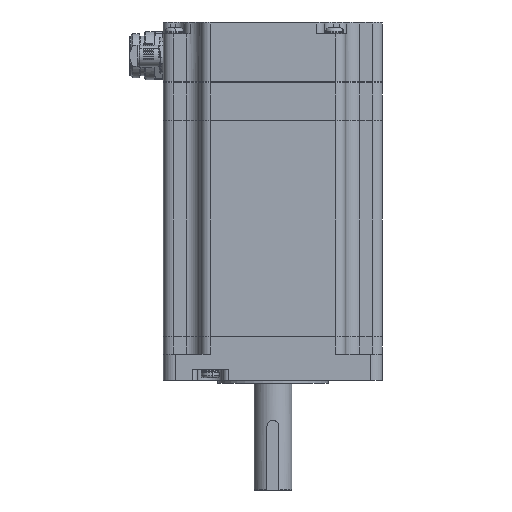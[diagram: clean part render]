
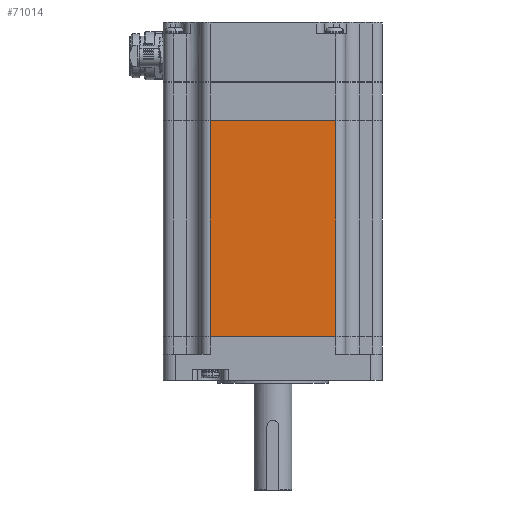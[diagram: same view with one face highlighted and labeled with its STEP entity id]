
A CAD part, front view. The second image highlights one B-rep face of the part: STEP entity #71014.
In plain terms, the highlighted planar face has unit normal (0, -1, 0).
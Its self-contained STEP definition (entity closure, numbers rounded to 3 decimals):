
#1959 = CARTESIAN_POINT ( 'NONE',  ( 31.5, -55., 105.62 ) ) ;
#4745 = EDGE_LOOP ( 'NONE', ( #63241, #42963, #96973, #10843 ) ) ;
#10843 = ORIENTED_EDGE ( 'NONE', *, *, #70081, .T. ) ;
#12337 = CARTESIAN_POINT ( 'NONE',  ( 31.5, -55., -2.8 ) ) ;
#17945 = LINE ( 'NONE', #34716, #29939 ) ;
#24228 = AXIS2_PLACEMENT_3D ( 'NONE', #72432, #73489, #96650 ) ;
#24452 = CARTESIAN_POINT ( 'NONE',  ( -31.5, -55., -2.8 ) ) ;
#25142 = VERTEX_POINT ( 'NONE', #94470 ) ;
#26602 = DIRECTION ( 'NONE',  ( 1., 0., 0. ) ) ;
#29939 = VECTOR ( 'NONE', #58571, 1000. ) ;
#30981 = DIRECTION ( 'NONE',  ( 0., 0., 1. ) ) ;
#34716 = CARTESIAN_POINT ( 'NONE',  ( 31.5, -55., 105.62 ) ) ;
#36452 = VECTOR ( 'NONE', #26602, 1000. ) ;
#38631 = EDGE_CURVE ( 'NONE', #64653, #25142, #55838, .T. ) ;
#42913 = LINE ( 'NONE', #67723, #36452 ) ;
#42963 = ORIENTED_EDGE ( 'NONE', *, *, #38631, .F. ) ;
#44454 = PLANE ( 'NONE',  #24228 ) ;
#51566 = VECTOR ( 'NONE', #30981, 1000. ) ;
#55838 = LINE ( 'NONE', #24452, #51566 ) ;
#58571 = DIRECTION ( 'NONE',  ( 1., 0., 0. ) ) ;
#63241 = ORIENTED_EDGE ( 'NONE', *, *, #92606, .F. ) ;
#63718 = VECTOR ( 'NONE', #69917, 1000. ) ;
#64653 = VERTEX_POINT ( 'NONE', #97761 ) ;
#67723 = CARTESIAN_POINT ( 'NONE',  ( 31.5, -55., -2.8 ) ) ;
#69917 = DIRECTION ( 'NONE',  ( 0., 0., 1. ) ) ;
#70081 = EDGE_CURVE ( 'NONE', #99933, #105251, #103247, .T. ) ;
#71014 = ADVANCED_FACE ( 'NONE', ( #85436 ), #44454, .T. ) ;
#72432 = CARTESIAN_POINT ( 'NONE',  ( 31.5, -55., -2.8 ) ) ;
#73489 = DIRECTION ( 'NONE',  ( 0., -1., 0. ) ) ;
#81933 = EDGE_CURVE ( 'NONE', #64653, #99933, #42913, .T. ) ;
#85436 = FACE_OUTER_BOUND ( 'NONE', #4745, .T. ) ;
#92606 = EDGE_CURVE ( 'NONE', #25142, #105251, #17945, .T. ) ;
#94470 = CARTESIAN_POINT ( 'NONE',  ( -31.5, -55., 105.62 ) ) ;
#95190 = CARTESIAN_POINT ( 'NONE',  ( 31.5, -55., -2.8 ) ) ;
#96650 = DIRECTION ( 'NONE',  ( 1., 0., 0. ) ) ;
#96973 = ORIENTED_EDGE ( 'NONE', *, *, #81933, .T. ) ;
#97761 = CARTESIAN_POINT ( 'NONE',  ( -31.5, -55., -2.8 ) ) ;
#99933 = VERTEX_POINT ( 'NONE', #12337 ) ;
#103247 = LINE ( 'NONE', #95190, #63718 ) ;
#105251 = VERTEX_POINT ( 'NONE', #1959 ) ;
